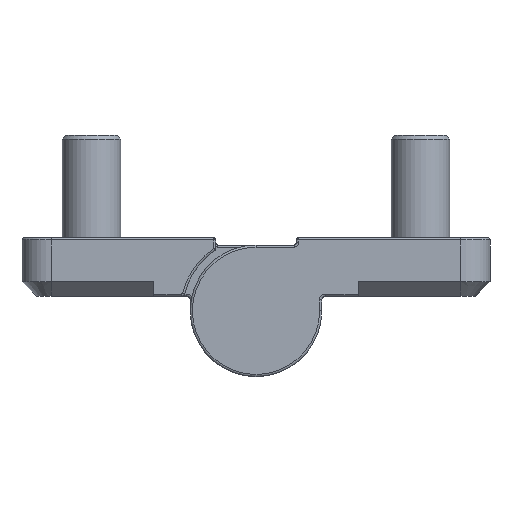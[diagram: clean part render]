
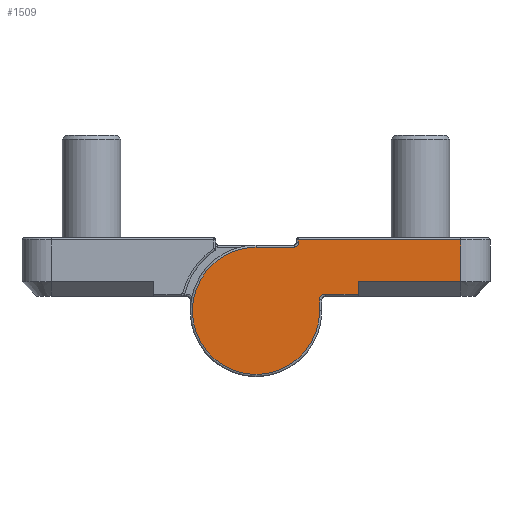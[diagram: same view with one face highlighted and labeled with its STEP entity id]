
A CAD part, front view. The second image highlights one B-rep face of the part: STEP entity #1509.
In plain terms, the highlighted planar face has unit normal (0, -1, 0).
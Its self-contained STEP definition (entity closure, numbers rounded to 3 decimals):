
#1=DIRECTION('',(1.,0.,0.));
#2=VECTOR('',#1,4.5);
#3=CARTESIAN_POINT('',(9.5,0.,-7.7));
#4=LINE('',#3,#2);
#5=CARTESIAN_POINT('',(9.5,0.,-8.5));
#6=DIRECTION('',(0.,1.,0.));
#7=DIRECTION('',(-1.,0.,0.));
#8=AXIS2_PLACEMENT_3D('',#5,#6,#7);
#10=DIRECTION('',(0.,0.,1.));
#11=VECTOR('',#10,1.5);
#12=CARTESIAN_POINT('',(8.7,0.,-10.));
#13=LINE('',#12,#11);
#14=CARTESIAN_POINT('',(0.,0.,-10.));
#15=DIRECTION('',(0.,-1.,0.));
#16=DIRECTION('',(0.,0.,1.));
#17=AXIS2_PLACEMENT_3D('',#14,#15,#16);
#19=DIRECTION('',(-1.,0.,0.));
#20=VECTOR('',#19,5.2);
#21=CARTESIAN_POINT('',(5.2,0.,-1.3));
#22=LINE('',#21,#20);
#23=CARTESIAN_POINT('',(5.2,0.,-0.7));
#24=DIRECTION('',(0.,1.,0.));
#25=DIRECTION('',(1.,0.,0.));
#26=AXIS2_PLACEMENT_3D('',#23,#24,#25);
#28=DIRECTION('',(0.,0.,-1.));
#29=VECTOR('',#28,0.4);
#30=CARTESIAN_POINT('',(5.8,0.,-0.3));
#31=LINE('',#30,#29);
#32=DIRECTION('',(-1.,0.,0.));
#33=VECTOR('',#32,22.2);
#34=CARTESIAN_POINT('',(28.,0.,-0.3));
#35=LINE('',#34,#33);
#36=DIRECTION('',(0.,0.,1.));
#37=VECTOR('',#36,5.7);
#38=CARTESIAN_POINT('',(28.,0.,-6.));
#39=LINE('',#38,#37);
#40=DIRECTION('',(-1.,0.,0.));
#41=VECTOR('',#40,14.);
#42=CARTESIAN_POINT('',(28.,0.,-6.));
#43=LINE('',#42,#41);
#44=DIRECTION('',(0.,0.,1.));
#45=VECTOR('',#44,1.7);
#46=CARTESIAN_POINT('',(14.,0.,-7.7));
#47=LINE('',#46,#45);
#1237=CARTESIAN_POINT('',(28.,0.,-6.));
#1238=CARTESIAN_POINT('',(14.,0.,-6.));
#1239=VERTEX_POINT('',#1237);
#1240=VERTEX_POINT('',#1238);
#1367=CARTESIAN_POINT('',(28.,0.,-0.3));
#1369=VERTEX_POINT('',#1367);
#1438=CARTESIAN_POINT('',(14.,0.,-7.7));
#1440=VERTEX_POINT('',#1438);
#1444=CARTESIAN_POINT('',(9.5,0.,-7.7));
#1445=VERTEX_POINT('',#1444);
#1446=CARTESIAN_POINT('',(8.7,0.,-8.5));
#1447=VERTEX_POINT('',#1446);
#1450=CARTESIAN_POINT('',(8.7,0.,-10.));
#1451=VERTEX_POINT('',#1450);
#1454=CARTESIAN_POINT('',(0.,0.,-1.3));
#1455=VERTEX_POINT('',#1454);
#1458=CARTESIAN_POINT('',(5.2,0.,-1.3));
#1459=VERTEX_POINT('',#1458);
#1462=CARTESIAN_POINT('',(5.8,0.,-0.7));
#1463=VERTEX_POINT('',#1462);
#1466=CARTESIAN_POINT('',(5.8,0.,-0.3));
#1467=VERTEX_POINT('',#1466);
#1480=CARTESIAN_POINT('',(0.,0.,0.));
#1481=DIRECTION('',(0.,1.,0.));
#1482=DIRECTION('',(1.,0.,0.));
#1483=AXIS2_PLACEMENT_3D('',#1480,#1481,#1482);
#1484=PLANE('',#1483);
#1486=ORIENTED_EDGE('',*,*,#1485,.F.);
#1488=ORIENTED_EDGE('',*,*,#1487,.F.);
#1490=ORIENTED_EDGE('',*,*,#1489,.F.);
#1492=ORIENTED_EDGE('',*,*,#1491,.F.);
#1494=ORIENTED_EDGE('',*,*,#1493,.F.);
#1496=ORIENTED_EDGE('',*,*,#1495,.F.);
#1498=ORIENTED_EDGE('',*,*,#1497,.F.);
#1500=ORIENTED_EDGE('',*,*,#1499,.F.);
#1502=ORIENTED_EDGE('',*,*,#1501,.F.);
#1504=ORIENTED_EDGE('',*,*,#1503,.T.);
#1506=ORIENTED_EDGE('',*,*,#1505,.F.);
#1507=EDGE_LOOP('',(#1486,#1488,#1490,#1492,#1494,#1496,#1498,#1500,#1502,#1504,
#1506));
#1508=FACE_OUTER_BOUND('',#1507,.F.);
#1509=ADVANCED_FACE('',(#1508),#1484,.F.);
#9=CIRCLE('',#8,0.8);
#18=CIRCLE('',#17,8.7);
#27=CIRCLE('',#26,0.6);
#1485=EDGE_CURVE('',#1445,#1440,#4,.T.);
#1487=EDGE_CURVE('',#1447,#1445,#9,.T.);
#1489=EDGE_CURVE('',#1451,#1447,#13,.T.);
#1491=EDGE_CURVE('',#1455,#1451,#18,.T.);
#1493=EDGE_CURVE('',#1459,#1455,#22,.T.);
#1495=EDGE_CURVE('',#1463,#1459,#27,.T.);
#1497=EDGE_CURVE('',#1467,#1463,#31,.T.);
#1499=EDGE_CURVE('',#1369,#1467,#35,.T.);
#1501=EDGE_CURVE('',#1239,#1369,#39,.T.);
#1503=EDGE_CURVE('',#1239,#1240,#43,.T.);
#1505=EDGE_CURVE('',#1440,#1240,#47,.T.);
